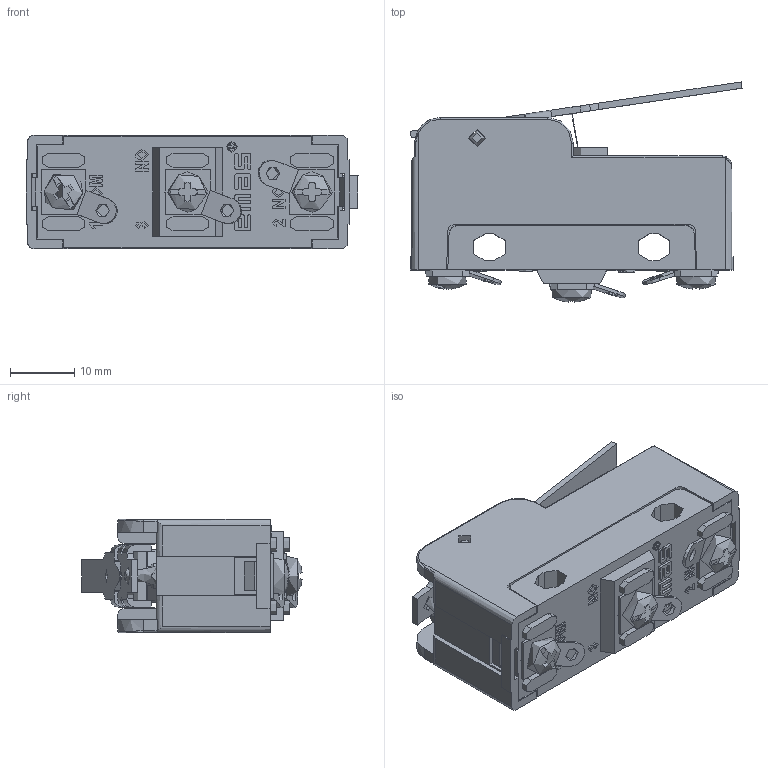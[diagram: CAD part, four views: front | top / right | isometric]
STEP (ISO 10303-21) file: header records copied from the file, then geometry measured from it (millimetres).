
FILE_DESCRIPTION((''),'2; 1');
FILE_NAME('','2026-03-27T16:28:33',(''),(''),'CST STEP Exporter V1.0','Unknown','');
FILE_SCHEMA(('CONFIG_CONTROL_DESIGN'));
Length unit declared in the file: metre
Assembly tree (14 placements, depth 2):
  (unnamed)
    (unnamed)
    (unnamed)
    (unnamed)
    (unnamed)
    (unnamed)
    (unnamed)
    (unnamed)
    (unnamed)
    (unnamed)
    (unnamed)
    (unnamed)
    (unnamed)
    (unnamed)
    (unnamed)
Bounding box: 51.83 x 34.37 x 17.7 mm (x, y, z)
Topology: 0 solids, 52 shells, 558 faces, 1660 edges, 1137 vertices
Faces by surface type: plane 344, cylinder 134, extrusion 57, torus 10, cone 7, sphere 4, bspline 2
Full cylindrical faces by diameter (mm): 1.4 x1, 1.8 x1, 2 x2, 2.2 x3, 2.5 x1, 2.6 x3, 3 x1, 3.9 x1, 7 x1, 8.2 x1
Entity records: 26301 total; most frequent: CARTESIAN_POINT 6613, ORIENTED_EDGE 3077, DIRECTION 2870, EDGE_CURVE 1689, VERTEX_POINT 1167, VECTOR 1136, LINE 1079, AXIS2_PLACEMENT_3D 867
